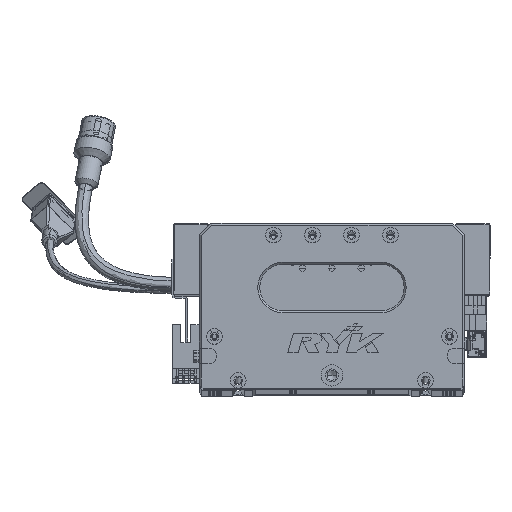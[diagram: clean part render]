
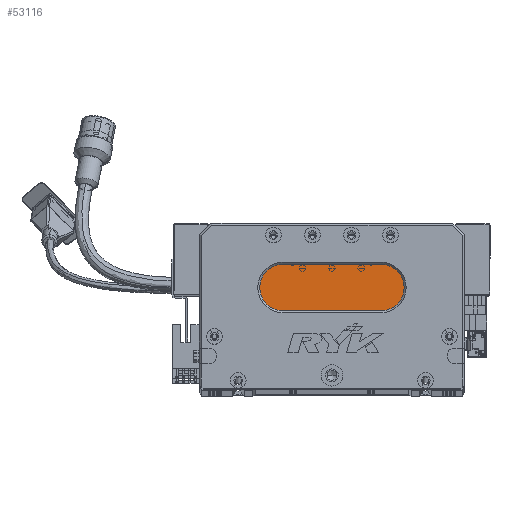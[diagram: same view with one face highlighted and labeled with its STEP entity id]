
A CAD part, top view. The second image highlights one B-rep face of the part: STEP entity #53116.
In plain terms, the highlighted planar face has unit normal (0, 0, 1) as drawn and (0, 0, -1) by its records, which use the part's own axes.
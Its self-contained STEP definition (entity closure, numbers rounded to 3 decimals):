
#1918 = DIRECTION ( 'NONE',  ( -1., 0., 0. ) ) ;
#11110 = DIRECTION ( 'NONE',  ( 0., 0., -1. ) ) ;
#13715 = CARTESIAN_POINT ( 'NONE',  ( 93., 64., 13. ) ) ;
#13821 = LINE ( 'NONE', #36744, #103007 ) ;
#14325 = DIRECTION ( 'NONE',  ( -1., 0., 0. ) ) ;
#18675 = DIRECTION ( 'NONE',  ( -1., 0., 0. ) ) ;
#18784 = AXIS2_PLACEMENT_3D ( 'NONE', #44716, #53390, #18675 ) ;
#19203 = EDGE_CURVE ( 'NONE', #97300, #90412, #104186, .T. ) ;
#24179 = EDGE_LOOP ( 'NONE', ( #61565, #43260, #61705, #111272, #76928 ) ) ;
#24931 = AXIS2_PLACEMENT_3D ( 'NONE', #93582, #101937, #14325 ) ;
#25175 = CIRCLE ( 'NONE', #99840, 12. ) ;
#25414 = EDGE_CURVE ( 'NONE', #106036, #97300, #13821, .T. ) ;
#25683 = VECTOR ( 'NONE', #32565, 1000. ) ;
#32565 = DIRECTION ( 'NONE',  ( 1., 0., 0. ) ) ;
#35864 = CARTESIAN_POINT ( 'NONE',  ( 93., 40., 13. ) ) ;
#36744 = CARTESIAN_POINT ( 'NONE',  ( 93., 40., 13. ) ) ;
#36807 = CARTESIAN_POINT ( 'NONE',  ( 43., 52., 13. ) ) ;
#43260 = ORIENTED_EDGE ( 'NONE', *, *, #25414, .T. ) ;
#44716 = CARTESIAN_POINT ( 'NONE',  ( 93., 52., 13. ) ) ;
#53116 = ADVANCED_FACE ( 'NONE', ( #82806 ), #61149, .T. ) ;
#53390 = DIRECTION ( 'NONE',  ( 0., 0., -1. ) ) ;
#54465 = DIRECTION ( 'NONE',  ( -1., 0., 0. ) ) ;
#57158 = AXIS2_PLACEMENT_3D ( 'NONE', #70929, #69823, #1918 ) ;
#61149 = PLANE ( 'NONE',  #57158 ) ;
#61565 = ORIENTED_EDGE ( 'NONE', *, *, #102339, .T. ) ;
#61705 = ORIENTED_EDGE ( 'NONE', *, *, #19203, .T. ) ;
#67424 = CARTESIAN_POINT ( 'NONE',  ( 31., 52., 13. ) ) ;
#69823 = DIRECTION ( 'NONE',  ( 0., 0., -1. ) ) ;
#69890 = VERTEX_POINT ( 'NONE', #96695 ) ;
#70929 = CARTESIAN_POINT ( 'NONE',  ( 93., 52., 13. ) ) ;
#76928 = ORIENTED_EDGE ( 'NONE', *, *, #107483, .T. ) ;
#81105 = VERTEX_POINT ( 'NONE', #101421 ) ;
#82806 = FACE_OUTER_BOUND ( 'NONE', #24179, .T. ) ;
#87425 = CARTESIAN_POINT ( 'NONE',  ( 43., 40., 13. ) ) ;
#87742 = LINE ( 'NONE', #13715, #25683 ) ;
#90412 = VERTEX_POINT ( 'NONE', #67424 ) ;
#93582 = CARTESIAN_POINT ( 'NONE',  ( 43., 52., 13. ) ) ;
#94195 = EDGE_CURVE ( 'NONE', #90412, #81105, #25175, .T. ) ;
#94203 = CIRCLE ( 'NONE', #18784, 12. ) ;
#96695 = CARTESIAN_POINT ( 'NONE',  ( 93., 64., 13. ) ) ;
#97161 = DIRECTION ( 'NONE',  ( -1., 0., 0. ) ) ;
#97300 = VERTEX_POINT ( 'NONE', #87425 ) ;
#99840 = AXIS2_PLACEMENT_3D ( 'NONE', #36807, #11110, #97161 ) ;
#101421 = CARTESIAN_POINT ( 'NONE',  ( 43., 64., 13. ) ) ;
#101937 = DIRECTION ( 'NONE',  ( 0., 0., -1. ) ) ;
#102339 = EDGE_CURVE ( 'NONE', #69890, #106036, #94203, .T. ) ;
#103007 = VECTOR ( 'NONE', #54465, 1000. ) ;
#104186 = CIRCLE ( 'NONE', #24931, 12. ) ;
#106036 = VERTEX_POINT ( 'NONE', #35864 ) ;
#107483 = EDGE_CURVE ( 'NONE', #81105, #69890, #87742, .T. ) ;
#111272 = ORIENTED_EDGE ( 'NONE', *, *, #94195, .T. ) ;
